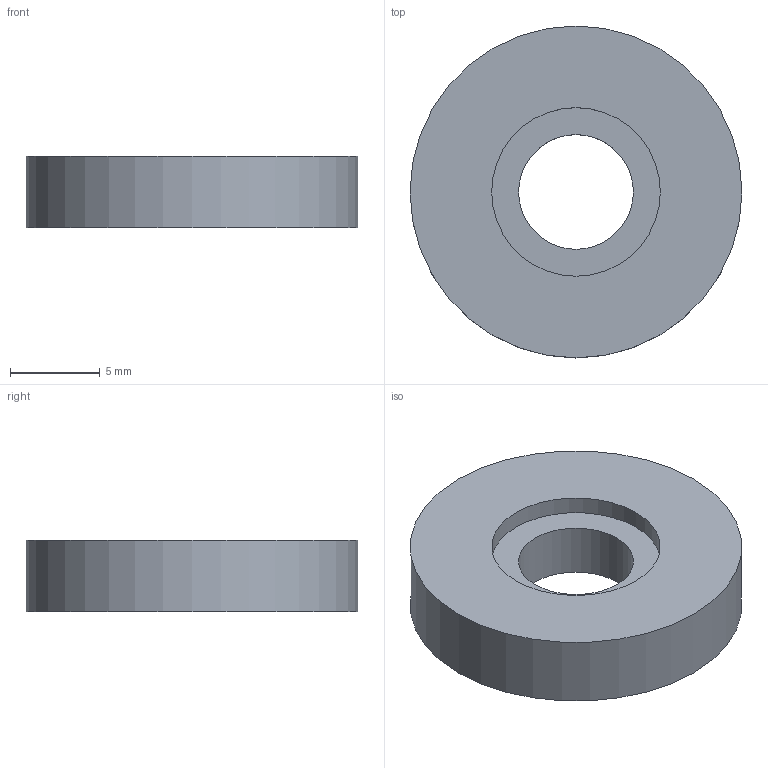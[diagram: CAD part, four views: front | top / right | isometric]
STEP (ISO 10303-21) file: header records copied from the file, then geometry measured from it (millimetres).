
FILE_DESCRIPTION(('Open CASCADE Model'),'2;1');
FILE_NAME('Open CASCADE Shape Model','2026-10-02T15:58:28',('Author'),( 'Open CASCADE'),'Open CASCADE STEP processor 8.0','build123d', 'Unknown');
FILE_SCHEMA(('AUTOMOTIVE_DESIGN { 1 0 10303 214 1 1 1 1 }'));
Length unit declared in the file: millimetre
Products named in the file (1): COMPOUND
Bounding box: 18.5 x 18.5 x 4 mm (x, y, z)
Volume: 909.3 mm3; surface area: 795.6 mm2
Topology: 1 solids, 1 shells, 6 faces, 9 edges, 6 vertices
Faces by surface type: cylinder 3, plane 3
Full cylindrical faces by diameter (mm): 6.4 x1, 9.4 x1, 18.5 x1
Entity records: 270 total; most frequent: DIRECTION 47, CARTESIAN_POINT 40, ORIENTED_EDGE 18, PCURVE 18, DEFINITIONAL_REPRESENTATION 18, LINE 15, VECTOR 15, AXIS2_PLACEMENT_3D 13
